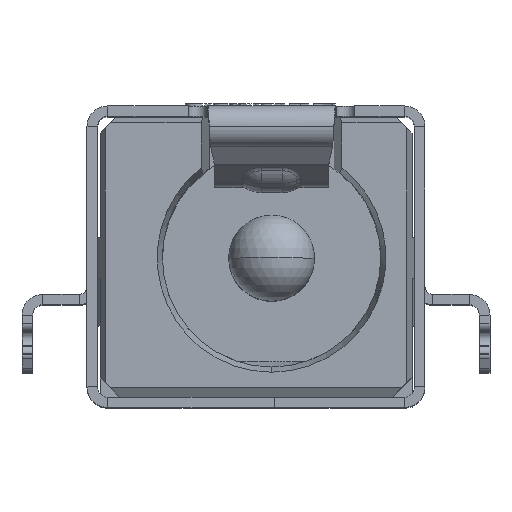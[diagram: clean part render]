
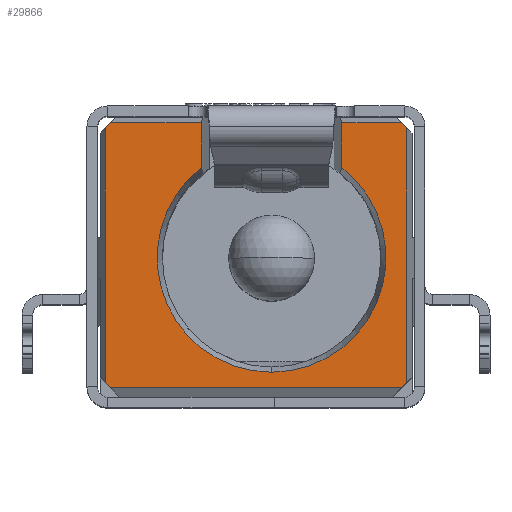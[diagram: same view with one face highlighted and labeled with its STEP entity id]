
A CAD part, top view. The second image highlights one B-rep face of the part: STEP entity #29866.
In plain terms, the highlighted planar face has unit normal (0, 0, 1).
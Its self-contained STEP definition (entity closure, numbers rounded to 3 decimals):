
#471 = DIRECTION ( 'NONE',  ( 0., 0., 1. ) ) ;
#568 = CARTESIAN_POINT ( 'NONE',  ( -1.35, 2.6, 11. ) ) ;
#716 = ORIENTED_EDGE ( 'NONE', *, *, #18225, .T. ) ;
#1182 = ORIENTED_EDGE ( 'NONE', *, *, #11117, .T. ) ;
#1481 = ORIENTED_EDGE ( 'NONE', *, *, #5660, .T. ) ;
#1705 = EDGE_CURVE ( 'NONE', #27865, #3964, #6384, .T. ) ;
#1929 = CARTESIAN_POINT ( 'NONE',  ( 1.35, 2.6, 11. ) ) ;
#2275 = CARTESIAN_POINT ( 'NONE',  ( -3.2, 2.5, 11. ) ) ;
#2422 = AXIS2_PLACEMENT_3D ( 'NONE', #27237, #10933, #17400 ) ;
#2591 = DIRECTION ( 'NONE',  ( 0., -1., 0. ) ) ;
#2644 = VECTOR ( 'NONE', #28989, 1000. ) ;
#2765 = CARTESIAN_POINT ( 'NONE',  ( 1.35, 1.737, 11. ) ) ;
#2980 = CARTESIAN_POINT ( 'NONE',  ( -1.35, 1.737, 11. ) ) ;
#3071 = DIRECTION ( 'NONE',  ( 0.707, -0.707, 0. ) ) ;
#3403 = CARTESIAN_POINT ( 'NONE',  ( 0., 0., 11. ) ) ;
#3451 = AXIS2_PLACEMENT_3D ( 'NONE', #28631, #9555, #28171 ) ;
#3557 = VECTOR ( 'NONE', #2591, 1000. ) ;
#3589 = VECTOR ( 'NONE', #11643, 1000. ) ;
#3964 = VERTEX_POINT ( 'NONE', #16732 ) ;
#5013 = EDGE_CURVE ( 'NONE', #27865, #21508, #16983, .T. ) ;
#5660 = EDGE_CURVE ( 'NONE', #20980, #7373, #13946, .T. ) ;
#6103 = CARTESIAN_POINT ( 'NONE',  ( 1.35, 2.6, 11. ) ) ;
#6384 = LINE ( 'NONE', #13736, #11112 ) ;
#6684 = EDGE_CURVE ( 'NONE', #20980, #11973, #10498, .T. ) ;
#6825 = DIRECTION ( 'NONE',  ( -0.707, -0.707, 0. ) ) ;
#6899 = CARTESIAN_POINT ( 'NONE',  ( -1.35, 2.6, 11. ) ) ;
#7128 = VERTEX_POINT ( 'NONE', #12597 ) ;
#7373 = VERTEX_POINT ( 'NONE', #21483 ) ;
#7483 = LINE ( 'NONE', #568, #23544 ) ;
#7717 = VERTEX_POINT ( 'NONE', #24312 ) ;
#8261 = CARTESIAN_POINT ( 'NONE',  ( 2.5, 2.6, 11. ) ) ;
#9235 = CARTESIAN_POINT ( 'NONE',  ( 2.6, 2.5, 11. ) ) ;
#9296 = LINE ( 'NONE', #1929, #14915 ) ;
#9555 = DIRECTION ( 'NONE',  ( 0., 0., -1. ) ) ;
#9782 = ORIENTED_EDGE ( 'NONE', *, *, #25662, .F. ) ;
#9926 = EDGE_CURVE ( 'NONE', #12050, #10655, #9296, .T. ) ;
#10271 = CIRCLE ( 'NONE', #2422, 2.2 ) ;
#10287 = ORIENTED_EDGE ( 'NONE', *, *, #1705, .F. ) ;
#10462 = CARTESIAN_POINT ( 'NONE',  ( 2.6, -2.4, 11. ) ) ;
#10498 = LINE ( 'NONE', #20034, #23166 ) ;
#10566 = DIRECTION ( 'NONE',  ( -1., 0., 0. ) ) ;
#10655 = VERTEX_POINT ( 'NONE', #2765 ) ;
#10803 = EDGE_CURVE ( 'NONE', #7373, #23402, #28900, .T. ) ;
#10933 = DIRECTION ( 'NONE',  ( 0., 0., -1. ) ) ;
#11112 = VECTOR ( 'NONE', #6825, 1000. ) ;
#11117 = EDGE_CURVE ( 'NONE', #13488, #11973, #7483, .T. ) ;
#11140 = CARTESIAN_POINT ( 'NONE',  ( -3.1, -2.5, 11. ) ) ;
#11307 = EDGE_CURVE ( 'NONE', #10655, #7717, #16670, .T. ) ;
#11389 = CARTESIAN_POINT ( 'NONE',  ( -3.1, -2.5, 11. ) ) ;
#11643 = DIRECTION ( 'NONE',  ( 0., -1., 0. ) ) ;
#11973 = VERTEX_POINT ( 'NONE', #24558 ) ;
#12050 = VERTEX_POINT ( 'NONE', #6103 ) ;
#12096 = ORIENTED_EDGE ( 'NONE', *, *, #25172, .T. ) ;
#12110 = AXIS2_PLACEMENT_3D ( 'NONE', #3403, #471, #24141 ) ;
#12344 = ORIENTED_EDGE ( 'NONE', *, *, #5013, .T. ) ;
#12597 = CARTESIAN_POINT ( 'NONE',  ( 2.5, 2.6, 11. ) ) ;
#12840 = EDGE_CURVE ( 'NONE', #7128, #12050, #22401, .T. ) ;
#13488 = VERTEX_POINT ( 'NONE', #24179 ) ;
#13736 = CARTESIAN_POINT ( 'NONE',  ( 2.6, -2.4, 11. ) ) ;
#13946 = LINE ( 'NONE', #2275, #3589 ) ;
#14385 = ORIENTED_EDGE ( 'NONE', *, *, #12840, .T. ) ;
#14550 = LINE ( 'NONE', #17323, #28410 ) ;
#14641 = VERTEX_POINT ( 'NONE', #2980 ) ;
#14915 = VECTOR ( 'NONE', #27457, 1000. ) ;
#15193 = CARTESIAN_POINT ( 'NONE',  ( -3.2, -2.4, 11. ) ) ;
#15214 = FACE_OUTER_BOUND ( 'NONE', #28067, .T. ) ;
#15840 = LINE ( 'NONE', #11389, #30051 ) ;
#16670 = CIRCLE ( 'NONE', #3451, 2.2 ) ;
#16732 = CARTESIAN_POINT ( 'NONE',  ( 2.5, -2.5, 11. ) ) ;
#16822 = CARTESIAN_POINT ( 'NONE',  ( 2.6, -2.4, 11. ) ) ;
#16843 = DIRECTION ( 'NONE',  ( -1., 0., 0. ) ) ;
#16983 = LINE ( 'NONE', #16822, #2644 ) ;
#17323 = CARTESIAN_POINT ( 'NONE',  ( 2.6, 2.5, 11. ) ) ;
#17400 = DIRECTION ( 'NONE',  ( 0.614, 0.79, 0. ) ) ;
#18225 = EDGE_CURVE ( 'NONE', #21508, #7128, #14550, .T. ) ;
#18259 = ORIENTED_EDGE ( 'NONE', *, *, #6684, .F. ) ;
#18963 = EDGE_CURVE ( 'NONE', #7717, #14641, #10271, .T. ) ;
#20034 = CARTESIAN_POINT ( 'NONE',  ( -3.2, 2.5, 11. ) ) ;
#20536 = ORIENTED_EDGE ( 'NONE', *, *, #9926, .T. ) ;
#20980 = VERTEX_POINT ( 'NONE', #22028 ) ;
#21483 = CARTESIAN_POINT ( 'NONE',  ( -3.2, -2.4, 11. ) ) ;
#21508 = VERTEX_POINT ( 'NONE', #9235 ) ;
#22028 = CARTESIAN_POINT ( 'NONE',  ( -3.2, 2.5, 11. ) ) ;
#22320 = VECTOR ( 'NONE', #3071, 1000. ) ;
#22401 = LINE ( 'NONE', #8261, #26349 ) ;
#23166 = VECTOR ( 'NONE', #29561, 1000. ) ;
#23402 = VERTEX_POINT ( 'NONE', #11140 ) ;
#23544 = VECTOR ( 'NONE', #16843, 1000. ) ;
#24141 = DIRECTION ( 'NONE',  ( 1., 0., 0. ) ) ;
#24179 = CARTESIAN_POINT ( 'NONE',  ( -1.35, 2.6, 11. ) ) ;
#24312 = CARTESIAN_POINT ( 'NONE',  ( 0., -2.2, 11. ) ) ;
#24397 = ORIENTED_EDGE ( 'NONE', *, *, #18963, .T. ) ;
#24558 = CARTESIAN_POINT ( 'NONE',  ( -3.1, 2.6, 11. ) ) ;
#25172 = EDGE_CURVE ( 'NONE', #23402, #3964, #15840, .T. ) ;
#25502 = LINE ( 'NONE', #6899, #3557 ) ;
#25662 = EDGE_CURVE ( 'NONE', #13488, #14641, #25502, .T. ) ;
#26230 = ORIENTED_EDGE ( 'NONE', *, *, #10803, .T. ) ;
#26349 = VECTOR ( 'NONE', #10566, 1000. ) ;
#26395 = DIRECTION ( 'NONE',  ( -0.707, 0.707, 0. ) ) ;
#27237 = CARTESIAN_POINT ( 'NONE',  ( 0., 0., 11. ) ) ;
#27457 = DIRECTION ( 'NONE',  ( 0., -1., 0. ) ) ;
#27550 = DIRECTION ( 'NONE',  ( 1., 0., 0. ) ) ;
#27865 = VERTEX_POINT ( 'NONE', #10462 ) ;
#28067 = EDGE_LOOP ( 'NONE', ( #9782, #1182, #18259, #1481, #26230, #12096, #10287, #12344, #716, #14385, #20536, #28318, #24397 ) ) ;
#28171 = DIRECTION ( 'NONE',  ( 0.614, 0.79, 0. ) ) ;
#28318 = ORIENTED_EDGE ( 'NONE', *, *, #11307, .T. ) ;
#28410 = VECTOR ( 'NONE', #26395, 1000. ) ;
#28615 = PLANE ( 'NONE',  #12110 ) ;
#28631 = CARTESIAN_POINT ( 'NONE',  ( 0., 0., 11. ) ) ;
#28900 = LINE ( 'NONE', #15193, #22320 ) ;
#28989 = DIRECTION ( 'NONE',  ( 0., 1., 0. ) ) ;
#29561 = DIRECTION ( 'NONE',  ( 0.707, 0.707, 0. ) ) ;
#29866 = ADVANCED_FACE ( 'NONE', ( #15214 ), #28615, .T. ) ;
#30051 = VECTOR ( 'NONE', #27550, 1000. ) ;
